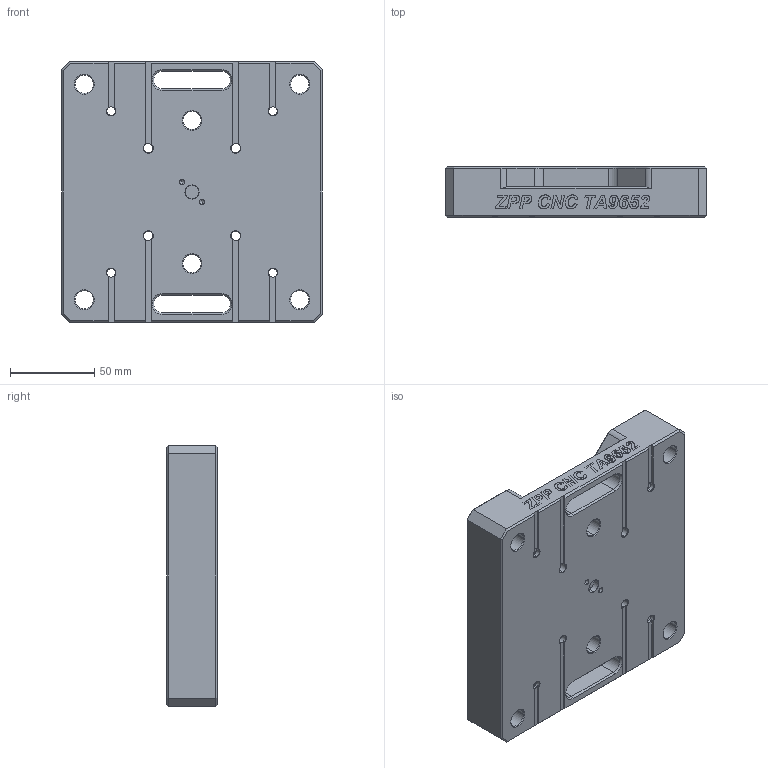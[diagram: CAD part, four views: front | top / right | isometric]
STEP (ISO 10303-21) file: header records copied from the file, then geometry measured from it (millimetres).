
FILE_DESCRIPTION((''),'2;1');
FILE_NAME('PRT0001','2024-04-26T12:44:51',('XF'),(''),'CREO PARAMETRIC BY PTC INC, 2022073','CREO PARAMETRIC BY PTC INC, 2022073','');
FILE_SCHEMA(('CONFIG_CONTROL_DESIGN'));
Length unit declared in the file: millimetre
Products named in the file (1): PRT0001
Bounding box: 155 x 30 x 155 mm (x, y, z)
Volume: 592785.2 mm3; surface area: 87625.4 mm2
Topology: 1 solids, 1 shells, 908 faces, 2562 edges, 1724 vertices
Faces by surface type: plane 314, extrusion 304, cylinder 150, cone 124, torus 16
Entity records: 31276 total; most frequent: CARTESIAN_POINT 8224, ORIENTED_EDGE 5100, DIRECTION 4092, EDGE_CURVE 2550, VERTEX_POINT 1724, VECTOR 1568, LINE 1264, AXIS2_PLACEMENT_3D 1262
